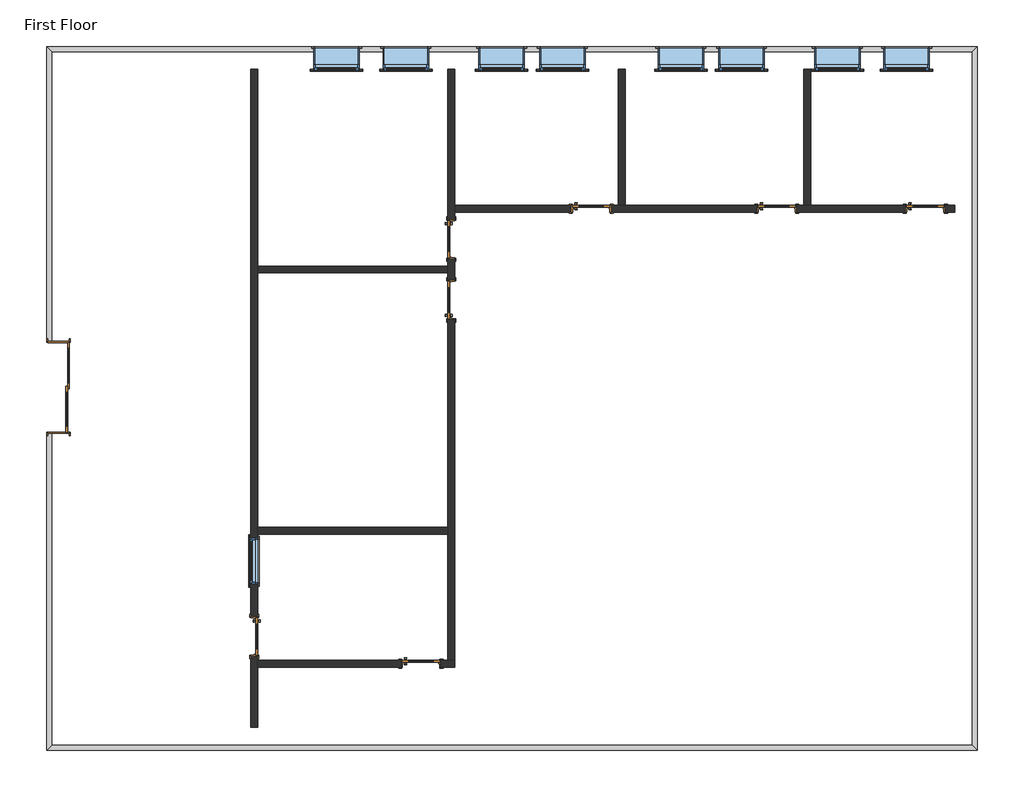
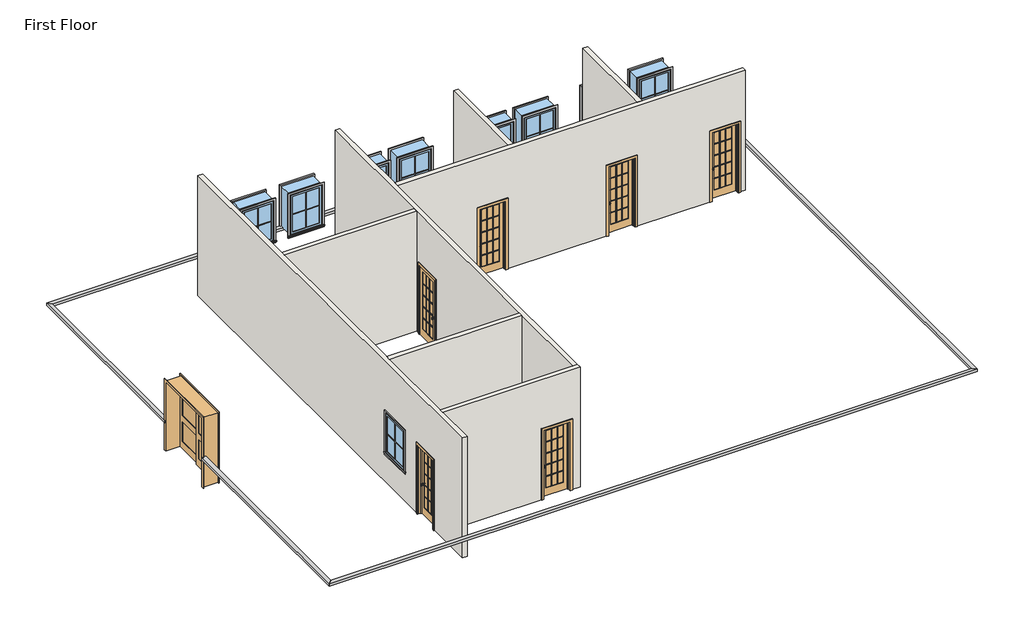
# One storey: 31 proxies, 9 windows, 8 doors, 8 walls.
"""IFC4 building model written with IfcOpenShell, lengths in millimetres."""

from ifc_helpers import new_model, si_unit, frame, origin, place, context, project, spatial, polyline, outline, extrude, faceted_brep, transform, mapped, element, save
from components import muntin_pattern_2x2_muntin_pattern_2x2_49331bd8, muntin_pattern_2x2_muntin_pattern_2x2_a8e7a107, trim_window_exterior_flat_with_sill_cdc255b3, trim_window_exterior_flat_with_sill_0ab60cae, trim_window_interior_flat_picture_frame_ab41cb78, trim_window_interior_flat_picture_frame_2efe6088, m_door_interior_double_sliding_2_panel_wood_1800_x_2100mm_b8cd72e9, m_door_interior_single_full_glass_wood_750_x_2100mm_ded28596, m_door_interior_single_full_glass_wood_750_x_2100mm_01f99739, window_awning_single_915_x_1220_b06b9331, window_awning_single_915_x_1220_597a1cb3, window_awning_single_915_x_1220_ba5cffbd

model = new_model("IFC4")

# Units and contexts
model_context = context("Model", 3, world=origin())
ifc_project = project(units=[si_unit("LENGTHUNIT", "METRE", prefix="MILLI")], contexts=[model_context])

# Site, building, storey
site = spatial("IfcSite", under=ifc_project)
building = spatial("IfcBuilding", under=site)
storey = spatial("IfcBuildingStorey", under=building, Name="First Floor", Elevation=3600.0)

# Proxies
placement = place(None, origin())
element("IfcBuildingElementProxy", 1, Name="Reveals", at=placement, inside=storey, context=model_context, shape_type="SweptSolid", body=[
    extrude(outline(polyline([(-17378.8100037, 5434.2363466), (-17481.3100037, 5536.7363466), (1223.6899963, 5536.7363466), (1121.1899963, 5434.2363466), (-17378.8100037, 5434.2363466)])), frame((0.0, 0.0, 4449.0), z_axis=(0.0, 0.0, 1.0), x_axis=(1.0, 0.0, 0.0)), (0.0, 0.0, 1.0), 75.0),
])
element("IfcBuildingElementProxy", 2, Name="Reveals", at=placement, inside=storey, context=model_context, shape_type="SweptSolid", body=[
    extrude(outline(polyline([(-17378.8100037, -381.0811162), (-17481.3100037, -381.0811162), (-17481.3100037, 5536.7363466), (-17378.8100037, 5434.2363466), (-17378.8100037, -381.0811162)])), frame((0.0, 0.0, 4449.0), z_axis=(0.0, 0.0, 1.0), x_axis=(1.0, 0.0, 0.0)), (0.0, 0.0, 1.0), 75.0),
    extrude(outline(polyline([(-17378.8100037, -8493.7636534), (-17481.3100037, -8596.2636534), (-17481.3100037, -2231.0811162), (-17378.8100037, -2231.0811162), (-17378.8100037, -8493.7636534)])), frame((0.0, 0.0, 4449.0), z_axis=(0.0, 0.0, 1.0), x_axis=(1.0, 0.0, 0.0)), (0.0, 0.0, 1.0), 75.0),
])
element("IfcBuildingElementProxy", 3, Name="Reveals", at=placement, inside=storey, context=model_context, shape_type="SweptSolid", body=[
    extrude(outline(polyline([(1121.1899963, -8493.7636534), (1223.6899963, -8596.2636534), (-17481.3100037, -8596.2636534), (-17378.8100037, -8493.7636534), (1121.1899963, -8493.7636534)])), frame((0.0, 0.0, 4449.0), z_axis=(0.0, 0.0, 1.0), x_axis=(1.0, 0.0, 0.0)), (0.0, 0.0, 1.0), 75.0),
])
element("IfcBuildingElementProxy", 4, Name="Reveals", at=placement, inside=storey, context=model_context, shape_type="SweptSolid", body=[
    extrude(outline(polyline([(1121.1899963, 5434.2363466), (1223.6899963, 5536.7363466), (1223.6899963, -8596.2636534), (1121.1899963, -8493.7636534), (1121.1899963, 5434.2363466)])), frame((0.0, 0.0, 4449.0), z_axis=(0.0, 0.0, 1.0), x_axis=(1.0, 0.0, 0.0)), (0.0, 0.0, 1.0), 75.0),
])
muntin_pattern_2x2_muntin_pattern_2x2_shape = muntin_pattern_2x2_muntin_pattern_2x2_49331bd8(model_context)
element("IfcBuildingElementProxy", 5, Name="Muntin Pattern_2x2 : Muntin Pattern_2x2", ObjectType="Muntin Pattern_2x2 : Muntin Pattern_2x2", at=placement, inside=storey, context=model_context, shape_type="MappedRepresentation", body=[
    mapped(muntin_pattern_2x2_muntin_pattern_2x2_shape, transform((-13370.5350037, -4799.4136534, 4584.25), x_axis=(0.0, 1.0, 0.0), y_axis=(-1.0, 0.0, 0.0), z_axis=(0.0, 0.0, 1.0))),
])
element("IfcBuildingElementProxy", 6, Name="Muntin Pattern_2x2 : Muntin Pattern_2x2", ObjectType="Muntin Pattern_2x2 : Muntin Pattern_2x2", at=placement, inside=storey, context=model_context, shape_type="MappedRepresentation", body=[
    mapped(muntin_pattern_2x2_muntin_pattern_2x2_shape, transform((-1590.3100037, 5089.7613466, 4584.25), x_axis=(-1.0, 0.0, 0.0), y_axis=(0.0, -1.0, 0.0), z_axis=(0.0, 0.0, 1.0))),
])
element("IfcBuildingElementProxy", 7, Name="Muntin Pattern_2x2 : Muntin Pattern_2x2", ObjectType="Muntin Pattern_2x2 : Muntin Pattern_2x2", at=placement, inside=storey, context=model_context, shape_type="MappedRepresentation", body=[
    mapped(muntin_pattern_2x2_muntin_pattern_2x2_shape, transform((-198.934993, 5089.7613466, 4584.25), x_axis=(-1.0, 0.0, 0.0), y_axis=(0.0, -1.0, 0.0), z_axis=(0.0, 0.0, 1.0))),
])
element("IfcBuildingElementProxy", 8, Name="Muntin Pattern_2x2 : Muntin Pattern_2x2", ObjectType="Muntin Pattern_2x2 : Muntin Pattern_2x2", at=placement, inside=storey, context=model_context, shape_type="MappedRepresentation", body=[
    mapped(muntin_pattern_2x2_muntin_pattern_2x2_shape, transform((-3517.3100037, 5089.7613466, 4584.25), x_axis=(-1.0, 0.0, 0.0), y_axis=(0.0, -1.0, 0.0), z_axis=(0.0, 0.0, 1.0))),
])
element("IfcBuildingElementProxy", 9, Name="Muntin Pattern_2x2 : Muntin Pattern_2x2", ObjectType="Muntin Pattern_2x2 : Muntin Pattern_2x2", at=placement, inside=storey, context=model_context, shape_type="MappedRepresentation", body=[
    mapped(muntin_pattern_2x2_muntin_pattern_2x2_shape, transform((-4736.5100037, 5089.7613466, 4584.25), x_axis=(-1.0, 0.0, 0.0), y_axis=(0.0, -1.0, 0.0), z_axis=(0.0, 0.0, 1.0))),
])
muntin_pattern_2x2_muntin_pattern_2x2_2_shape = muntin_pattern_2x2_muntin_pattern_2x2_a8e7a107(model_context)
element("IfcBuildingElementProxy", 10, Name="Muntin Pattern_2x2 : Muntin Pattern_2x2", ObjectType="Muntin Pattern_2x2 : Muntin Pattern_2x2", at=placement, inside=storey, context=model_context, shape_type="MappedRepresentation", body=[
    mapped(muntin_pattern_2x2_muntin_pattern_2x2_2_shape, transform((-10263.2100037, 5089.7613466, 4584.25), x_axis=(1.0, 0.0, 0.0), y_axis=(0.0, 1.0, 0.0), z_axis=(0.0, 0.0, 1.0))),
])
element("IfcBuildingElementProxy", 11, Name="Muntin Pattern_2x2 : Muntin Pattern_2x2", ObjectType="Muntin Pattern_2x2 : Muntin Pattern_2x2", at=placement, inside=storey, context=model_context, shape_type="MappedRepresentation", body=[
    mapped(muntin_pattern_2x2_muntin_pattern_2x2_2_shape, transform((-11654.5850143, 5089.7613466, 4584.25), x_axis=(1.0, 0.0, 0.0), y_axis=(0.0, 1.0, 0.0), z_axis=(0.0, 0.0, 1.0))),
])
element("IfcBuildingElementProxy", 12, Name="Muntin Pattern_2x2 : Muntin Pattern_2x2", ObjectType="Muntin Pattern_2x2 : Muntin Pattern_2x2", at=placement, inside=storey, context=model_context, shape_type="MappedRepresentation", body=[
    mapped(muntin_pattern_2x2_muntin_pattern_2x2_2_shape, transform((-8336.2100037, 5089.7613466, 4584.25), x_axis=(1.0, 0.0, 0.0), y_axis=(0.0, 1.0, 0.0), z_axis=(0.0, 0.0, 1.0))),
])
element("IfcBuildingElementProxy", 13, Name="Muntin Pattern_2x2 : Muntin Pattern_2x2", ObjectType="Muntin Pattern_2x2 : Muntin Pattern_2x2", at=placement, inside=storey, context=model_context, shape_type="MappedRepresentation", body=[
    mapped(muntin_pattern_2x2_muntin_pattern_2x2_2_shape, transform((-7117.0100037, 5089.7613466, 4584.25), x_axis=(1.0, 0.0, 0.0), y_axis=(0.0, 1.0, 0.0), z_axis=(0.0, 0.0, 1.0))),
])
trim_window_exterior_flat_with_sill_shape = trim_window_exterior_flat_with_sill_cdc255b3(model_context)
element("IfcBuildingElementProxy", 14, Name="Trim-Window-Exterior-Flat : with Sill", ObjectType="Trim-Window-Exterior-Flat : with Sill", at=placement, inside=storey, context=model_context, shape_type="MappedRepresentation", body=[
    mapped(trim_window_exterior_flat_with_sill_shape, transform((-13380.0600037, -4799.4136534, 5734.4), x_axis=(0.0, -1.0, 0.0), y_axis=(0.0, 0.0, 1.0), z_axis=(-1.0, 0.0, 0.0))),
])
element("IfcBuildingElementProxy", 15, Name="Trim-Window-Exterior-Flat : with Sill", ObjectType="Trim-Window-Exterior-Flat : with Sill", at=placement, inside=storey, context=model_context, shape_type="MappedRepresentation", body=[
    mapped(trim_window_exterior_flat_with_sill_shape, transform((-1590.3100037, 5080.2363466, 5734.4), x_axis=(1.0, 0.0, 0.0), y_axis=(0.0, 0.0, 1.0), z_axis=(0.0, -1.0, 0.0))),
])
element("IfcBuildingElementProxy", 16, Name="Trim-Window-Exterior-Flat : with Sill", ObjectType="Trim-Window-Exterior-Flat : with Sill", at=placement, inside=storey, context=model_context, shape_type="MappedRepresentation", body=[
    mapped(trim_window_exterior_flat_with_sill_shape, transform((-198.934993, 5080.2363466, 5734.4), x_axis=(1.0, 0.0, 0.0), y_axis=(0.0, 0.0, 1.0), z_axis=(0.0, -1.0, 0.0))),
])
element("IfcBuildingElementProxy", 17, Name="Trim-Window-Exterior-Flat : with Sill", ObjectType="Trim-Window-Exterior-Flat : with Sill", at=placement, inside=storey, context=model_context, shape_type="MappedRepresentation", body=[
    mapped(trim_window_exterior_flat_with_sill_shape, transform((-3517.3100037, 5080.2363466, 5734.4), x_axis=(1.0, 0.0, 0.0), y_axis=(0.0, 0.0, 1.0), z_axis=(0.0, -1.0, 0.0))),
])
element("IfcBuildingElementProxy", 18, Name="Trim-Window-Exterior-Flat : with Sill", ObjectType="Trim-Window-Exterior-Flat : with Sill", at=placement, inside=storey, context=model_context, shape_type="MappedRepresentation", body=[
    mapped(trim_window_exterior_flat_with_sill_shape, transform((-4736.5100037, 5080.2363466, 5734.4), x_axis=(1.0, 0.0, 0.0), y_axis=(0.0, 0.0, 1.0), z_axis=(0.0, -1.0, 0.0))),
])
trim_window_exterior_flat_with_sill_2_shape = trim_window_exterior_flat_with_sill_0ab60cae(model_context)
element("IfcBuildingElementProxy", 19, Name="Trim-Window-Exterior-Flat : with Sill", ObjectType="Trim-Window-Exterior-Flat : with Sill", at=placement, inside=storey, context=model_context, shape_type="MappedRepresentation", body=[
    mapped(trim_window_exterior_flat_with_sill_2_shape, transform((-10263.2100037, 5080.2363466, 5734.4), x_axis=(-1.0, 0.0, 0.0), y_axis=(0.0, 0.0, -1.0), z_axis=(0.0, -1.0, 0.0))),
])
element("IfcBuildingElementProxy", 20, Name="Trim-Window-Exterior-Flat : with Sill", ObjectType="Trim-Window-Exterior-Flat : with Sill", at=placement, inside=storey, context=model_context, shape_type="MappedRepresentation", body=[
    mapped(trim_window_exterior_flat_with_sill_2_shape, transform((-11654.5850143, 5080.2363466, 5734.4), x_axis=(-1.0, 0.0, 0.0), y_axis=(0.0, 0.0, -1.0), z_axis=(0.0, -1.0, 0.0))),
])
element("IfcBuildingElementProxy", 21, Name="Trim-Window-Exterior-Flat : with Sill", ObjectType="Trim-Window-Exterior-Flat : with Sill", at=placement, inside=storey, context=model_context, shape_type="MappedRepresentation", body=[
    mapped(trim_window_exterior_flat_with_sill_2_shape, transform((-8336.2100037, 5080.2363466, 5734.4), x_axis=(-1.0, 0.0, 0.0), y_axis=(0.0, 0.0, -1.0), z_axis=(0.0, -1.0, 0.0))),
])
element("IfcBuildingElementProxy", 22, Name="Trim-Window-Exterior-Flat : with Sill", ObjectType="Trim-Window-Exterior-Flat : with Sill", at=placement, inside=storey, context=model_context, shape_type="MappedRepresentation", body=[
    mapped(trim_window_exterior_flat_with_sill_2_shape, transform((-7117.0100037, 5080.2363466, 5734.4), x_axis=(-1.0, 0.0, 0.0), y_axis=(0.0, 0.0, -1.0), z_axis=(0.0, -1.0, 0.0))),
])
trim_window_interior_flat_picture_frame_shape = trim_window_interior_flat_picture_frame_ab41cb78(model_context)
element("IfcBuildingElementProxy", 23, Name="Trim-Window-Interior-Flat : Picture Frame", ObjectType="Trim-Window-Interior-Flat : Picture Frame", at=placement, inside=storey, context=model_context, shape_type="MappedRepresentation", body=[
    mapped(trim_window_interior_flat_picture_frame_shape, transform((-13241.5600037, -4799.4136534, 5734.4), x_axis=(0.0, 1.0, 0.0), y_axis=(0.0, 0.0, 1.0), z_axis=(1.0, 0.0, 0.0))),
])
element("IfcBuildingElementProxy", 24, Name="Trim-Window-Interior-Flat : Picture Frame", ObjectType="Trim-Window-Interior-Flat : Picture Frame", at=placement, inside=storey, context=model_context, shape_type="MappedRepresentation", body=[
    mapped(trim_window_interior_flat_picture_frame_shape, transform((-1590.3100037, 5509.2363466, 5734.4), x_axis=(-1.0, 0.0, 0.0), y_axis=(0.0, 0.0, 1.0), z_axis=(0.0, 1.0, 0.0))),
])
element("IfcBuildingElementProxy", 25, Name="Trim-Window-Interior-Flat : Picture Frame", ObjectType="Trim-Window-Interior-Flat : Picture Frame", at=placement, inside=storey, context=model_context, shape_type="MappedRepresentation", body=[
    mapped(trim_window_interior_flat_picture_frame_shape, transform((-198.934993, 5509.2363466, 5734.4), x_axis=(-1.0, 0.0, 0.0), y_axis=(0.0, 0.0, 1.0), z_axis=(0.0, 1.0, 0.0))),
])
element("IfcBuildingElementProxy", 26, Name="Trim-Window-Interior-Flat : Picture Frame", ObjectType="Trim-Window-Interior-Flat : Picture Frame", at=placement, inside=storey, context=model_context, shape_type="MappedRepresentation", body=[
    mapped(trim_window_interior_flat_picture_frame_shape, transform((-3517.3100037, 5509.2363466, 5734.4), x_axis=(-1.0, 0.0, 0.0), y_axis=(0.0, 0.0, 1.0), z_axis=(0.0, 1.0, 0.0))),
])
element("IfcBuildingElementProxy", 27, Name="Trim-Window-Interior-Flat : Picture Frame", ObjectType="Trim-Window-Interior-Flat : Picture Frame", at=placement, inside=storey, context=model_context, shape_type="MappedRepresentation", body=[
    mapped(trim_window_interior_flat_picture_frame_shape, transform((-4736.5100037, 5509.2363466, 5734.4), x_axis=(-1.0, 0.0, 0.0), y_axis=(0.0, 0.0, 1.0), z_axis=(0.0, 1.0, 0.0))),
])
trim_window_interior_flat_picture_frame_2_shape = trim_window_interior_flat_picture_frame_2efe6088(model_context)
element("IfcBuildingElementProxy", 28, Name="Trim-Window-Interior-Flat : Picture Frame", ObjectType="Trim-Window-Interior-Flat : Picture Frame", at=placement, inside=storey, context=model_context, shape_type="MappedRepresentation", body=[
    mapped(trim_window_interior_flat_picture_frame_2_shape, transform((-10263.2100037, 5509.2363466, 5734.4), x_axis=(1.0, 0.0, 0.0), y_axis=(0.0, 0.0, -1.0), z_axis=(0.0, 1.0, 0.0))),
])
element("IfcBuildingElementProxy", 29, Name="Trim-Window-Interior-Flat : Picture Frame", ObjectType="Trim-Window-Interior-Flat : Picture Frame", at=placement, inside=storey, context=model_context, shape_type="MappedRepresentation", body=[
    mapped(trim_window_interior_flat_picture_frame_2_shape, transform((-11654.5850143, 5509.2363466, 5734.4), x_axis=(1.0, 0.0, 0.0), y_axis=(0.0, 0.0, -1.0), z_axis=(0.0, 1.0, 0.0))),
])
element("IfcBuildingElementProxy", 30, Name="Trim-Window-Interior-Flat : Picture Frame", ObjectType="Trim-Window-Interior-Flat : Picture Frame", at=placement, inside=storey, context=model_context, shape_type="MappedRepresentation", body=[
    mapped(trim_window_interior_flat_picture_frame_2_shape, transform((-8336.2100037, 5509.2363466, 5734.4), x_axis=(1.0, 0.0, 0.0), y_axis=(0.0, 0.0, -1.0), z_axis=(0.0, 1.0, 0.0))),
])
element("IfcBuildingElementProxy", 31, Name="Trim-Window-Interior-Flat : Picture Frame", ObjectType="Trim-Window-Interior-Flat : Picture Frame", at=placement, inside=storey, context=model_context, shape_type="MappedRepresentation", body=[
    mapped(trim_window_interior_flat_picture_frame_2_shape, transform((-7117.0100037, 5509.2363466, 5734.4), x_axis=(1.0, 0.0, 0.0), y_axis=(0.0, 0.0, -1.0), z_axis=(0.0, 1.0, 0.0))),
])

# Doors
m_door_interior_double_sliding_2_panel_wood_1800_x_2100mm_shape = m_door_interior_double_sliding_2_panel_wood_1800_x_2100mm_b8cd72e9(model_context)
element("IfcDoor", 32, ObjectType="M_Door-Interior-Double-Sliding-2_Panel-Wood : 1800 x 2100mm", at=placement, inside=storey, context=model_context, shape_type="MappedRepresentation", body=[
    mapped(m_door_interior_double_sliding_2_panel_wood_1800_x_2100mm_shape, transform((-17236.1350037, -1306.0811162, 3600.0), x_axis=(0.0, -1.0, 0.0), y_axis=(1.0, 0.0, 0.0), z_axis=(0.0, 0.0, 1.0))),
])
m_door_interior_single_full_glass_wood_750_x_2100mm_shape = m_door_interior_single_full_glass_wood_750_x_2100mm_ded28596(model_context)
element("IfcDoor", 33, ObjectType="M_Door-Interior-Single-Full Glass-Wood : 750 x 2100mm", at=placement, inside=storey, context=model_context, shape_type="MappedRepresentation", body=[
    mapped(m_door_interior_single_full_glass_wood_750_x_2100mm_shape, transform((-13307.6350037, -6311.9136534, 3600.0), x_axis=(0.0, -1.0, 0.0), y_axis=(1.0, 0.0, 0.0), z_axis=(0.0, 0.0, 1.0))),
])
element("IfcDoor", 34, ObjectType="M_Door-Interior-Single-Full Glass-Wood : 750 x 2100mm", at=placement, inside=storey, context=model_context, shape_type="MappedRepresentation", body=[
    mapped(m_door_interior_single_full_glass_wood_750_x_2100mm_shape, transform((-9958.4100037, -6860.5886534, 3600.0), x_axis=(1.0, 0.0, 0.0), y_axis=(0.0, 1.0, 0.0), z_axis=(0.0, 0.0, 1.0))),
])
element("IfcDoor", 35, ObjectType="M_Door-Interior-Single-Full Glass-Wood : 750 x 2100mm", at=placement, inside=storey, context=model_context, shape_type="MappedRepresentation", body=[
    mapped(m_door_interior_single_full_glass_wood_750_x_2100mm_shape, transform((-9351.9850037, 451.4363466, 3600.0), x_axis=(0.0, 1.0, 0.0), y_axis=(-1.0, 0.0, 0.0), z_axis=(0.0, 0.0, 1.0))),
])
element("IfcDoor", 36, ObjectType="M_Door-Interior-Single-Full Glass-Wood : 750 x 2100mm", at=placement, inside=storey, context=model_context, shape_type="MappedRepresentation", body=[
    mapped(m_door_interior_single_full_glass_wood_750_x_2100mm_shape, transform((-6536.3600037, 2283.4113466, 3600.0), x_axis=(1.0, 0.0, 0.0), y_axis=(0.0, 1.0, 0.0), z_axis=(0.0, 0.0, 1.0))),
])
element("IfcDoor", 37, ObjectType="M_Door-Interior-Single-Full Glass-Wood : 750 x 2100mm", at=placement, inside=storey, context=model_context, shape_type="MappedRepresentation", body=[
    mapped(m_door_interior_single_full_glass_wood_750_x_2100mm_shape, transform((-2809.5100037, 2283.4113466, 3600.0), x_axis=(1.0, 0.0, 0.0), y_axis=(0.0, 1.0, 0.0), z_axis=(0.0, 0.0, 1.0))),
])
element("IfcDoor", 38, ObjectType="M_Door-Interior-Single-Full Glass-Wood : 750 x 2100mm", at=placement, inside=storey, context=model_context, shape_type="MappedRepresentation", body=[
    mapped(m_door_interior_single_full_glass_wood_750_x_2100mm_shape, transform((175.5899963, 2283.4113466, 3600.0), x_axis=(1.0, 0.0, 0.0), y_axis=(0.0, 1.0, 0.0), z_axis=(0.0, 0.0, 1.0))),
])
m_door_interior_single_full_glass_wood_750_x_2100mm_2_shape = m_door_interior_single_full_glass_wood_750_x_2100mm_01f99739(model_context)
element("IfcDoor", 39, ObjectType="M_Door-Interior-Single-Full Glass-Wood : 750 x 2100mm", at=placement, inside=storey, context=model_context, shape_type="MappedRepresentation", body=[
    mapped(m_door_interior_single_full_glass_wood_750_x_2100mm_2_shape, transform((-9351.9850037, 1670.6363466, 3600.0), x_axis=(0.0, -1.0, 0.0), y_axis=(1.0, 0.0, 0.0), z_axis=(0.0, 0.0, 1.0))),
])

# Walls
element("IfcWall", 40, ObjectType="Interior - 138mm Partition (1-hr)", at=placement, inside=storey, context=model_context, shape_type="Brep", body=[
    faceted_brep([(-13380.0600037, -8139.7636534, 7258.0), (-13380.0600037, 5080.2363466, 7258.0), (-13380.0600037, 5080.2363466, 3600.0), (-13380.0600037, -5911.9136534, 3600.0), (-13380.0600037, -5911.9136534, 5725.0), (-13380.0600037, -6711.9136534, 5725.0), (-13380.0600037, -6711.9136534, 3600.0), (-13380.0600037, -8139.7636534, 3600.0), (-13380.0600037, -4341.9136534, 5734.4), (-13380.0600037, -5256.9136534, 5734.4), (-13380.0600037, -5256.9136534, 4514.4), (-13380.0600037, -4341.9136534, 4514.4), (-13241.5600037, 5080.2363466, 7258.0), (-13241.5600037, 1130.2863466, 7258.0), (-13241.5600037, 991.7863466, 7258.0), (-13241.5600037, -4120.5636534, 7258.0), (-13241.5600037, -4259.0636534, 7258.0), (-13241.5600037, -6794.5136534, 7258.0), (-13241.5600037, -6933.0136534, 7258.0), (-13241.5600037, -8139.7636534, 7258.0), (-13241.5600037, -8139.7636534, 3600.0), (-13241.5600037, -6933.0136534, 3600.0), (-13241.5600037, -6794.5136534, 3600.0), (-13241.5600037, -6711.9136534, 3600.0), (-13241.5600037, -6711.9136534, 5725.0), (-13241.5600037, -5911.9136534, 5725.0), (-13241.5600037, -5911.9136534, 3600.0), (-13241.5600037, -4259.0636534, 3600.0), (-13241.5600037, -4120.5636534, 3600.0), (-13241.5600037, 991.7863466, 3600.0), (-13241.5600037, 1130.2863466, 3600.0), (-13241.5600037, 5080.2363466, 3600.0), (-13241.5600037, -4341.9136534, 5734.4), (-13241.5600037, -4341.9136534, 4514.4), (-13241.5600037, -5256.9136534, 4514.4), (-13241.5600037, -5256.9136534, 5734.4)], [[[0, 1, 2, 3, 4, 5, 6, 7], [8, 9, 10, 11]], [[12, 13, 14, 15, 16, 17, 18, 19, 20, 21, 22, 23, 24, 25, 26, 27, 28, 29, 30, 31], [32, 33, 34, 35]], [[2, 31, 30, 29, 28, 27, 26, 3]], [[20, 7, 6, 23, 22, 21]], [[1, 0, 19, 18, 17, 16, 15, 14, 13, 12]], [[5, 24, 23, 6]], [[24, 5, 4, 25]], [[25, 4, 3, 26]], [[33, 32, 8, 11]], [[34, 33, 11, 10]], [[35, 34, 10, 9]], [[32, 35, 9, 8]], [[2, 1, 12, 31]], [[0, 7, 20, 19]]]),
])
element("IfcWall", 41, ObjectType="Interior - 138mm Partition (1-hr)", at=placement, inside=storey, context=model_context, shape_type="Brep", body=[
    faceted_brep([(-9279.5600037, -6933.0136534, 7258.0), (-13241.5600037, -6933.0136534, 7258.0), (-13241.5600037, -6933.0136534, 3600.0), (-10358.4100037, -6933.0136534, 3600.0), (-10358.4100037, -6933.0136534, 5725.0), (-9558.4100037, -6933.0136534, 5725.0), (-9558.4100037, -6933.0136534, 3600.0), (-9279.5600037, -6933.0136534, 3600.0), (-13241.5600037, -6794.5136534, 7258.0), (-9418.0600037, -6794.5136534, 7258.0), (-9279.5600037, -6794.5136534, 7258.0), (-9279.5600037, -6794.5136534, 3600.0), (-9418.0600037, -6794.5136534, 3600.0), (-9558.4100037, -6794.5136534, 3600.0), (-9558.4100037, -6794.5136534, 5725.0), (-10358.4100037, -6794.5136534, 5725.0), (-10358.4100037, -6794.5136534, 3600.0), (-13241.5600037, -6794.5136534, 3600.0)], [[[0, 1, 2, 3, 4, 5, 6, 7]], [[8, 9, 10, 11, 12, 13, 14, 15, 16, 17]], [[2, 17, 16, 3]], [[11, 7, 6, 13, 12]], [[1, 0, 10, 9, 8]], [[2, 1, 8, 17]], [[0, 7, 11, 10]], [[5, 14, 13, 6]], [[14, 5, 4, 15]], [[15, 4, 3, 16]]]),
])
element("IfcWall", 42, ObjectType="Interior - 138mm Partition (1-hr)", at=placement, inside=storey, context=model_context, shape_type="Brep", body=[
    faceted_brep([(-9279.5600037, 5080.2363466, 7258.0), (-9279.5600037, 2349.4863466, 7258.0), (-9279.5600037, 2210.9863466, 7258.0), (-9279.5600037, -6794.5136534, 7258.0), (-9279.5600037, -6794.5136534, 3600.0), (-9279.5600037, 51.4363466, 3600.0), (-9279.5600037, 51.4363466, 5725.0), (-9279.5600037, 851.4363466, 5725.0), (-9279.5600037, 851.4363466, 3600.0), (-9279.5600037, 1270.6363466, 3600.0), (-9279.5600037, 1270.6363466, 5725.0), (-9279.5600037, 2070.6363466, 5725.0), (-9279.5600037, 2070.6363466, 3600.0), (-9279.5600037, 2210.9863466, 3600.0), (-9279.5600037, 2349.4863466, 3600.0), (-9279.5600037, 5080.2363466, 3600.0), (-9418.0600037, -6794.5136534, 7258.0), (-9418.0600037, -4259.0636534, 7258.0), (-9418.0600037, -4120.5636534, 7258.0), (-9418.0600037, 991.7863466, 7258.0), (-9418.0600037, 1130.2863466, 7258.0), (-9418.0600037, 5080.2363466, 7258.0), (-9418.0600037, 5080.2363466, 3600.0), (-9418.0600037, 2070.6363466, 3600.0), (-9418.0600037, 2070.6363466, 5725.0), (-9418.0600037, 1270.6363466, 5725.0), (-9418.0600037, 1270.6363466, 3600.0), (-9418.0600037, 1130.2863466, 3600.0), (-9418.0600037, 991.7863466, 3600.0), (-9418.0600037, 851.4363466, 3600.0), (-9418.0600037, 851.4363466, 5725.0), (-9418.0600037, 51.4363466, 5725.0), (-9418.0600037, 51.4363466, 3600.0), (-9418.0600037, -4120.5636534, 3600.0), (-9418.0600037, -4259.0636534, 3600.0), (-9418.0600037, -6794.5136534, 3600.0)], [[[0, 1, 2, 3, 4, 5, 6, 7, 8, 9, 10, 11, 12, 13, 14, 15]], [[16, 17, 18, 19, 20, 21, 22, 23, 24, 25, 26, 27, 28, 29, 30, 31, 32, 33, 34, 35]], [[4, 35, 34, 33, 32, 5]], [[8, 29, 28, 27, 26, 9]], [[22, 15, 14, 13, 12, 23]], [[3, 2, 1, 0, 21, 20, 19, 18, 17, 16]], [[4, 3, 16, 35]], [[7, 30, 29, 8]], [[30, 7, 6, 31]], [[31, 6, 5, 32]], [[25, 10, 9, 26]], [[10, 25, 24, 11]], [[11, 24, 23, 12]], [[0, 15, 22, 21]]]),
])
element("IfcWall", 43, ObjectType="Interior - 138mm Partition (1-hr)", at=placement, inside=storey, context=model_context, shape_type="Brep", body=[
    faceted_brep([(767.1899963, 2210.9863466, 7258.0), (-9279.5600037, 2210.9863466, 7258.0), (-9279.5600037, 2210.9863466, 3600.0), (-6936.3600037, 2210.9863466, 3600.0), (-6936.3600037, 2210.9863466, 5725.0), (-6136.3600037, 2210.9863466, 5725.0), (-6136.3600037, 2210.9863466, 3600.0), (-3209.5100037, 2210.9863466, 3600.0), (-3209.5100037, 2210.9863466, 5725.0), (-2409.5100037, 2210.9863466, 5725.0), (-2409.5100037, 2210.9863466, 3600.0), (-224.4100037, 2210.9863466, 3600.0), (-224.4100037, 2210.9863466, 5725.0), (575.5899963, 2210.9863466, 5725.0), (575.5899963, 2210.9863466, 3600.0), (767.1899963, 2210.9863466, 3600.0), (-9279.5600037, 2349.4863466, 7258.0), (-5996.0100037, 2349.4863466, 7258.0), (-5857.5100037, 2349.4863466, 7258.0), (-2269.1600037, 2349.4863466, 7258.0), (-2130.6600037, 2349.4863466, 7258.0), (767.1899963, 2349.4863466, 7258.0), (767.1899963, 2349.4863466, 3600.0), (575.5899963, 2349.4863466, 3600.0), (575.5899963, 2349.4863466, 5725.0), (-224.4100037, 2349.4863466, 5725.0), (-224.4100037, 2349.4863466, 3600.0), (-2130.6600037, 2349.4863466, 3600.0), (-2269.1600037, 2349.4863466, 3600.0), (-2409.5100037, 2349.4863466, 3600.0), (-2409.5100037, 2349.4863466, 5725.0), (-3209.5100037, 2349.4863466, 5725.0), (-3209.5100037, 2349.4863466, 3600.0), (-5857.5100037, 2349.4863466, 3600.0), (-5996.0100037, 2349.4863466, 3600.0), (-6136.3600037, 2349.4863466, 3600.0), (-6136.3600037, 2349.4863466, 5725.0), (-6936.3600037, 2349.4863466, 5725.0), (-6936.3600037, 2349.4863466, 3600.0), (-9279.5600037, 2349.4863466, 3600.0)], [[[0, 1, 2, 3, 4, 5, 6, 7, 8, 9, 10, 11, 12, 13, 14, 15]], [[16, 17, 18, 19, 20, 21, 22, 23, 24, 25, 26, 27, 28, 29, 30, 31, 32, 33, 34, 35, 36, 37, 38, 39]], [[2, 39, 38, 3]], [[6, 35, 34, 33, 32, 7]], [[10, 29, 28, 27, 26, 11]], [[22, 15, 14, 23]], [[1, 0, 21, 20, 19, 18, 17, 16]], [[2, 1, 16, 39]], [[5, 36, 35, 6]], [[36, 5, 4, 37]], [[37, 4, 3, 38]], [[9, 30, 29, 10]], [[30, 9, 8, 31]], [[31, 8, 7, 32]], [[13, 24, 23, 14]], [[24, 13, 12, 25]], [[25, 12, 11, 26]], [[0, 15, 22, 21]]]),
])
element("IfcWall", 44, ObjectType="Interior - 138mm Partition (1-hr)", at=placement, inside=storey, context=model_context, shape_type="SweptSolid", body=[
    extrude(outline(polyline([(-9418.0600037, 991.7863466), (-13241.5600037, 991.7863466), (-13241.5600037, 1130.2863466), (-9418.0600037, 1130.2863466), (-9418.0600037, 991.7863466)])), frame((0.0, 0.0, 3600.0), z_axis=(0.0, 0.0, 1.0), x_axis=(1.0, 0.0, 0.0)), (0.0, 0.0, 1.0), 3658.0),
])
element("IfcWall", 45, ObjectType="Interior - 138mm Partition (1-hr)", at=placement, inside=storey, context=model_context, shape_type="SweptSolid", body=[
    extrude(outline(polyline([(-9418.0600037, -4259.0636534), (-13241.5600037, -4259.0636534), (-13241.5600037, -4120.5636534), (-9418.0600037, -4120.5636534), (-9418.0600037, -4259.0636534)])), frame((0.0, 0.0, 3600.0), z_axis=(0.0, 0.0, 1.0), x_axis=(1.0, 0.0, 0.0)), (0.0, 0.0, 1.0), 3658.0),
])
element("IfcWall", 46, ObjectType="Interior - 138mm Partition (1-hr)", at=placement, inside=storey, context=model_context, shape_type="SweptSolid", body=[
    extrude(outline(polyline([(-5996.0100037, 2349.4863466), (-5996.0100037, 5080.2363466), (-5857.5100037, 5080.2363466), (-5857.5100037, 2349.4863466), (-5996.0100037, 2349.4863466)])), frame((0.0, 0.0, 3600.0), z_axis=(0.0, 0.0, 1.0), x_axis=(1.0, 0.0, 0.0)), (0.0, 0.0, 1.0), 3658.0),
])
element("IfcWall", 47, ObjectType="Interior - 138mm Partition (1-hr)", at=placement, inside=storey, context=model_context, shape_type="SweptSolid", body=[
    extrude(outline(polyline([(-2269.1600037, 2349.4863466), (-2269.1600037, 5080.2363466), (-2130.6600037, 5080.2363466), (-2130.6600037, 2349.4863466), (-2269.1600037, 2349.4863466)])), frame((0.0, 0.0, 3600.0), z_axis=(0.0, 0.0, 1.0), x_axis=(1.0, 0.0, 0.0)), (0.0, 0.0, 1.0), 3658.0),
])

# Windows
window_awning_single_915_x_1220_shape = window_awning_single_915_x_1220_b06b9331(model_context)
element("IfcWindow", 48, ObjectType="Window-Awning-Single : 915 X 1220", at=placement, inside=storey, context=model_context, shape_type="MappedRepresentation", body=[
    mapped(window_awning_single_915_x_1220_shape, transform((-13310.8100037, -4799.4136534, 3600.0), x_axis=(0.0, 1.0, 0.0), y_axis=(-1.0, 0.0, 0.0), z_axis=(0.0, 0.0, 1.0))),
])
window_awning_single_915_x_1220_2_shape = window_awning_single_915_x_1220_597a1cb3(model_context)
element("IfcWindow", 49, ObjectType="Window-Awning-Single : 915 X 1220", at=placement, inside=storey, context=model_context, shape_type="MappedRepresentation", body=[
    mapped(window_awning_single_915_x_1220_2_shape, transform((-10263.2100037, 5294.7363466, 3600.0), x_axis=(1.0, 0.0, 0.0), y_axis=(0.0, 1.0, 0.0), z_axis=(0.0, 0.0, 1.0))),
])
element("IfcWindow", 50, ObjectType="Window-Awning-Single : 915 X 1220", at=placement, inside=storey, context=model_context, shape_type="MappedRepresentation", body=[
    mapped(window_awning_single_915_x_1220_2_shape, transform((-11654.5850143, 5294.7363466, 3600.0), x_axis=(1.0, 0.0, 0.0), y_axis=(0.0, 1.0, 0.0), z_axis=(0.0, 0.0, 1.0))),
])
element("IfcWindow", 51, ObjectType="Window-Awning-Single : 915 X 1220", at=placement, inside=storey, context=model_context, shape_type="MappedRepresentation", body=[
    mapped(window_awning_single_915_x_1220_2_shape, transform((-8336.2100037, 5294.7363466, 3600.0), x_axis=(1.0, 0.0, 0.0), y_axis=(0.0, 1.0, 0.0), z_axis=(0.0, 0.0, 1.0))),
])
element("IfcWindow", 52, ObjectType="Window-Awning-Single : 915 X 1220", at=placement, inside=storey, context=model_context, shape_type="MappedRepresentation", body=[
    mapped(window_awning_single_915_x_1220_2_shape, transform((-7117.0100037, 5294.7363466, 3600.0), x_axis=(1.0, 0.0, 0.0), y_axis=(0.0, 1.0, 0.0), z_axis=(0.0, 0.0, 1.0))),
])
window_awning_single_915_x_1220_3_shape = window_awning_single_915_x_1220_ba5cffbd(model_context)
element("IfcWindow", 53, ObjectType="Window-Awning-Single : 915 X 1220", at=placement, inside=storey, context=model_context, shape_type="MappedRepresentation", body=[
    mapped(window_awning_single_915_x_1220_3_shape, transform((-1590.3100037, 5294.7363466, 3600.0), x_axis=(-1.0, 0.0, 0.0), y_axis=(0.0, -1.0, 0.0), z_axis=(0.0, 0.0, 1.0))),
])
element("IfcWindow", 54, ObjectType="Window-Awning-Single : 915 X 1220", at=placement, inside=storey, context=model_context, shape_type="MappedRepresentation", body=[
    mapped(window_awning_single_915_x_1220_3_shape, transform((-198.934993, 5294.7363466, 3600.0), x_axis=(-1.0, 0.0, 0.0), y_axis=(0.0, -1.0, 0.0), z_axis=(0.0, 0.0, 1.0))),
])
element("IfcWindow", 55, ObjectType="Window-Awning-Single : 915 X 1220", at=placement, inside=storey, context=model_context, shape_type="MappedRepresentation", body=[
    mapped(window_awning_single_915_x_1220_3_shape, transform((-3517.3100037, 5294.7363466, 3600.0), x_axis=(-1.0, 0.0, 0.0), y_axis=(0.0, -1.0, 0.0), z_axis=(0.0, 0.0, 1.0))),
])
element("IfcWindow", 56, ObjectType="Window-Awning-Single : 915 X 1220", at=placement, inside=storey, context=model_context, shape_type="MappedRepresentation", body=[
    mapped(window_awning_single_915_x_1220_3_shape, transform((-4736.5100037, 5294.7363466, 3600.0), x_axis=(-1.0, 0.0, 0.0), y_axis=(0.0, -1.0, 0.0), z_axis=(0.0, 0.0, 1.0))),
])

save(model, "model.ifc")
